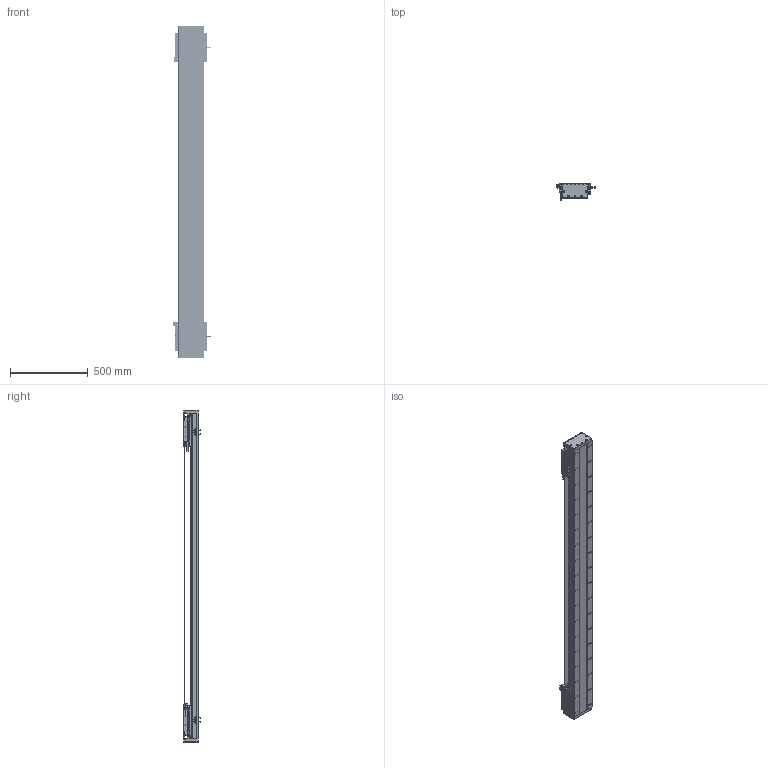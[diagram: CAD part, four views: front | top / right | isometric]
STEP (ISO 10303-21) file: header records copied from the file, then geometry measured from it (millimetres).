
FILE_DESCRIPTION (( 'STEP AP203' ), '1' );
FILE_NAME ('DA-C165-2-C2-T1640-C010-0.2 直线电机.STEP', '2023-05-11T08:23:35', ( '微软用户' ), ( '微软中国' ), 'SwSTEP 2.0', 'SolidWorks 2019', '' );
FILE_SCHEMA (( 'CONFIG_CONTROL_DESIGN' ));
Length unit declared in the file: millimetre
Products named in the file (22): 复件 CKM02-W075-C1C2-TP-3.0 一体电机-C2^DA-C165-C2-T-C010-0.2-N 直线电机; 复件 XD-U-02L 磁栅尺^DA-C165-C2-T-C010-0.2-N 直线电机_T; 复件 DMA-010-0.2 读数头^DA-C165-C2-T-C010-0.2-N 直线电机; 复件 DA165-GDYK-00 钢带压块^复件 CU165钢带组件_DA-C165-C2-T-C010-0.2-N 直线电机; 葩璃 DA95-GT-T-00^IU-CU165-L 菁釱絳寢_T; IU-CU165-L-00 菁釱_L2100; 复件 DA165-GD-1860-002-00 钢带盖板^复件 CU165钢带组件_DA-C165-C2-T-C010-0.2-N 直线电机; 复件 DKW-HXJ-JY-00 缓冲橡胶^DA-C165-C2-T-C010-0.2-N 直线电机; 复件 六角薄螺母 M3^DA-C165-C2-T-C010-0.2-N 直线电机_GB_FASTENER_NUT_STNAB M3-C; 复件 DA95-HXJ-00 缓冲橡胶^DA-C165-C2-T-C010-0.2-N 直线电机; 复件 DA165-GDLK-00 钢带拉块^复件 CU165钢带组件_DA-C165-C2-T-C010-0.2-N 直线电机; 珨极趙賑雄怢啣wf-C2; 复件 66338-1000-006-00 光电感应块^DA-C165-C2-T-C010-0.2-N 直线电机; 葩璃 CKM01-W075-TRL^DA-C165-C2-T-C010-0.2-N 眻盄萇儂; 复件 CU165钢带组件^DA-C165-C2-T-C010-0.2-N 直线电机; 复件 DA126-GYP-ZJ-00 中间光电感应片^DA-C165-C2-T-C010-0.2-N 直线电机; DA-C165-2-C2-T1640-C010-0.2 眻盄萇儂; 葩璃 PM-T45^DA-C165-C2-T-C010-0.2-N 眻盄萇儂; 复件 DA165-GYP-00 光电感应片^DA-C165-C2-T-C010-0.2-N 直线电机; IU-CU165-L 菁釱絳寢; 复件 DA165-GD-DG-H-00 端盖^复件 CU165钢带组件_DA-C165-C2-T-C010-0.2-N 直线电机; 葩璃 PM-Y45^DA-C165-C2-T-C010-0.2-N 眻盄萇儂
Assembly tree (43 placements, depth 3):
  DA-C165-2-C2-T1640-C010-0.2 眻盄萇儂
    IU-CU165-L 菁釱絳寢
      IU-CU165-L-00 菁釱_L2100
      葩璃 DA95-GT-T-00^IU-CU165-L 菁釱絳寢_T  x4
    复件 XD-U-02L 磁栅尺^DA-C165-C2-T-C010-0.2-N 直线电机_T
    葩璃 PM-T45^DA-C165-C2-T-C010-0.2-N 眻盄萇儂  x4
    葩璃 CKM01-W075-TRL^DA-C165-C2-T-C010-0.2-N 眻盄萇儂
    复件 CU165钢带组件^DA-C165-C2-T-C010-0.2-N 直线电机
      复件 DA165-GD-DG-H-00 端盖^复件 CU165钢带组件_DA-C165-C2-T-C010-0.2-N 直线电机  x2
      复件 DA165-GDYK-00 钢带压块^复件 CU165钢带组件_DA-C165-C2-T-C010-0.2-N 直线电机  x2
      复件 DA165-GD-1860-002-00 钢带盖板^复件 CU165钢带组件_DA-C165-C2-T-C010-0.2-N 直线电机
      复件 DA165-GDLK-00 钢带拉块^复件 CU165钢带组件_DA-C165-C2-T-C010-0.2-N 直线电机  x2
    复件 DA95-HXJ-00 缓冲橡胶^DA-C165-C2-T-C010-0.2-N 直线电机  x4
    复件 CKM02-W075-C1C2-TP-3.0 一体电机-C2^DA-C165-C2-T-C010-0.2-N 直线电机  x2
    复件 DMA-010-0.2 读数头^DA-C165-C2-T-C010-0.2-N 直线电机  x2
    复件 DA165-GYP-00 光电感应片^DA-C165-C2-T-C010-0.2-N 直线电机  x2
    复件 66338-1000-006-00 光电感应块^DA-C165-C2-T-C010-0.2-N 直线电机
    葩璃 PM-Y45^DA-C165-C2-T-C010-0.2-N 眻盄萇儂
    复件 DA126-GYP-ZJ-00 中间光电感应片^DA-C165-C2-T-C010-0.2-N 直线电机
    复件 DKW-HXJ-JY-00 缓冲橡胶^DA-C165-C2-T-C010-0.2-N 直线电机  x2
    复件 六角薄螺母 M3^DA-C165-C2-T-C010-0.2-N 直线电机_GB_FASTENER_NUT_STNAB M3-C  x6
    珨极趙賑雄怢啣wf-C2  x2
Bounding box: 247.2 x 111.45 x 2140 mm (x, y, z)
Volume: 13867954.3 mm3; surface area: 3945699.5 mm2
Topology: 119 solids, 119 shells, 5419 faces, 15010 edges, 9438 vertices
Faces by surface type: cylinder 2836, plane 1791, cone 704, torus 80, sphere 8
Entity records: 124386 total; most frequent: CARTESIAN_POINT 32149, ORIENTED_EDGE 18964, DIRECTION 18526, EDGE_CURVE 9482, AXIS2_PLACEMENT_3D 7004, VERTEX_POINT 6175, VECTOR 4518, LINE 4518
